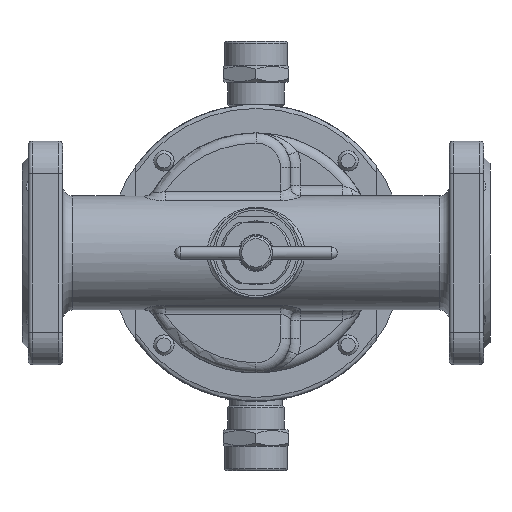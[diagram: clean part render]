
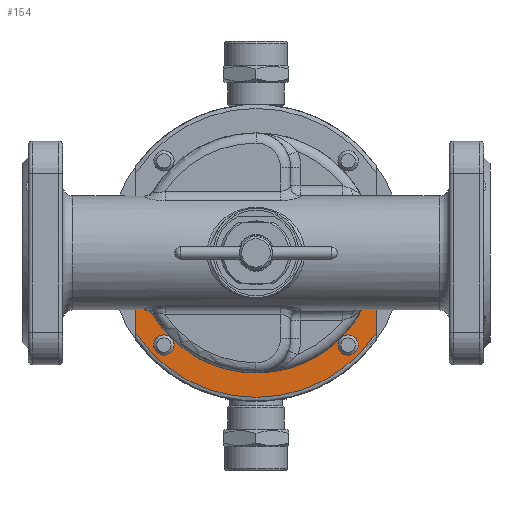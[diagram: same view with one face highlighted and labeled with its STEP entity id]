
A CAD part, front view. The second image highlights one B-rep face of the part: STEP entity #154.
In plain terms, the highlighted planar face has unit normal (0, -1, 0).
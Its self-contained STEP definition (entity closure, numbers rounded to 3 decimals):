
#154=ADVANCED_FACE('',(#4385),#4387,.F.);
#4385=FACE_OUTER_BOUND('',#4386,.T.);
#4386=EDGE_LOOP('',(#21455,#21456,#21457,#21458,#21459,#21460,#21461,#21462,#21463,
#21464));
#4387=PLANE('',#4388);
#4388=AXIS2_PLACEMENT_3D('',#4389,#4390,#4391);
#4389=CARTESIAN_POINT('',(0.,39.5,0.));
#4390=DIRECTION('',(0.,1.,0.));
#4391=DIRECTION('',(-1.,0.,0.));
#21455=ORIENTED_EDGE('',*,*,#32865,.F.);
#21456=ORIENTED_EDGE('',*,*,#32866,.F.);
#21457=ORIENTED_EDGE('',*,*,#32766,.F.);
#21458=ORIENTED_EDGE('',*,*,#32788,.F.);
#21459=ORIENTED_EDGE('',*,*,#32867,.F.);
#21460=ORIENTED_EDGE('',*,*,#32780,.F.);
#21461=ORIENTED_EDGE('',*,*,#32768,.F.);
#21462=ORIENTED_EDGE('',*,*,#32868,.F.);
#21463=ORIENTED_EDGE('',*,*,#32869,.F.);
#21464=ORIENTED_EDGE('',*,*,#32767,.F.);
#32766=EDGE_CURVE('',#37677,#37765,#37766,.T.);
#32767=EDGE_CURVE('',#37765,#37767,#37768,.T.);
#32768=EDGE_CURVE('',#37767,#37671,#37769,.T.);
#32780=EDGE_CURVE('',#37671,#37790,#37791,.T.);
#32788=EDGE_CURVE('',#37803,#37677,#37805,.T.);
#32865=EDGE_CURVE('',#37929,#37765,#37930,.T.);
#32866=EDGE_CURVE('',#37765,#37929,#37931,.T.);
#32867=EDGE_CURVE('',#37790,#37803,#37932,.T.);
#32868=EDGE_CURVE('',#37933,#37767,#37934,.T.);
#32869=EDGE_CURVE('',#37767,#37933,#37935,.T.);
#37671=VERTEX_POINT('',#45856);
#37677=VERTEX_POINT('',#45870);
#37765=VERTEX_POINT('',#46124);
#37766=CIRCLE('',#46125,59.);
#37767=VERTEX_POINT('',#46129);
#37768=CIRCLE('',#46130,59.);
#37769=CIRCLE('',#46134,59.);
#37790=VERTEX_POINT('',#46282);
#37791=LINE('',#46283,#46284);
#37803=VERTEX_POINT('',#46414);
#37805=LINE('',#46470,#46471);
#37929=VERTEX_POINT('',#46971);
#37930=CIRCLE('',#46972,5.);
#37931=CIRCLE('',#46976,5.);
#37932=CIRCLE('',#46980,71.);
#37933=VERTEX_POINT('',#46984);
#37934=CIRCLE('',#46985,5.);
#37935=CIRCLE('',#46989,5.);
#45856=CARTESIAN_POINT('',(59.,39.5,0.));
#45870=CARTESIAN_POINT('',(-59.,39.5,0.));
#46124=CARTESIAN_POINT('',(-41.719,39.5,-41.719));
#46125=AXIS2_PLACEMENT_3D('',#46126,#46127,#46128);
#46126=CARTESIAN_POINT('',(0.,39.5,0.));
#46127=DIRECTION('',(0.,-1.,0.));
#46128=DIRECTION('',(-1.,0.,0.));
#46129=CARTESIAN_POINT('',(41.719,39.5,-41.719));
#46130=AXIS2_PLACEMENT_3D('',#46131,#46132,#46133);
#46131=CARTESIAN_POINT('',(0.,39.5,0.));
#46132=DIRECTION('',(0.,-1.,0.));
#46133=DIRECTION('',(-0.707,0.,-0.707));
#46134=AXIS2_PLACEMENT_3D('',#46135,#46136,#46137);
#46135=CARTESIAN_POINT('',(0.,39.5,0.));
#46136=DIRECTION('',(0.,-1.,0.));
#46137=DIRECTION('',(0.707,0.,-0.707));
#46282=CARTESIAN_POINT('',(59.,39.5,-39.497));
#46283=CARTESIAN_POINT('',(59.,39.5,0.));
#46284=VECTOR('',#46285,1.);
#46285=DIRECTION('',(0.,0.,-1.));
#46414=CARTESIAN_POINT('',(-59.,39.5,-39.497));
#46470=CARTESIAN_POINT('',(-59.,39.5,-39.497));
#46471=VECTOR('',#46472,1.);
#46472=DIRECTION('',(0.,0.,1.));
#46971=CARTESIAN_POINT('',(-45.255,39.5,-50.255));
#46972=AXIS2_PLACEMENT_3D('',#46973,#46974,#46975);
#46973=CARTESIAN_POINT('',(-45.255,39.5,-45.255));
#46974=DIRECTION('',(0.,-1.,0.));
#46975=DIRECTION('',(0.,0.,-1.));
#46976=AXIS2_PLACEMENT_3D('',#46977,#46978,#46979);
#46977=CARTESIAN_POINT('',(-45.255,39.5,-45.255));
#46978=DIRECTION('',(0.,-1.,0.));
#46979=DIRECTION('',(0.707,0.,0.707));
#46980=AXIS2_PLACEMENT_3D('',#46981,#46982,#46983);
#46981=CARTESIAN_POINT('',(0.,39.5,0.));
#46982=DIRECTION('',(0.,1.,0.));
#46983=DIRECTION('',(0.831,0.,-0.556));
#46984=CARTESIAN_POINT('',(50.255,39.5,-45.255));
#46985=AXIS2_PLACEMENT_3D('',#46986,#46987,#46988);
#46986=CARTESIAN_POINT('',(45.255,39.5,-45.255));
#46987=DIRECTION('',(0.,-1.,0.));
#46988=DIRECTION('',(1.,0.,0.));
#46989=AXIS2_PLACEMENT_3D('',#46990,#46991,#46992);
#46990=CARTESIAN_POINT('',(45.255,39.5,-45.255));
#46991=DIRECTION('',(0.,-1.,0.));
#46992=DIRECTION('',(-0.707,0.,0.707));
